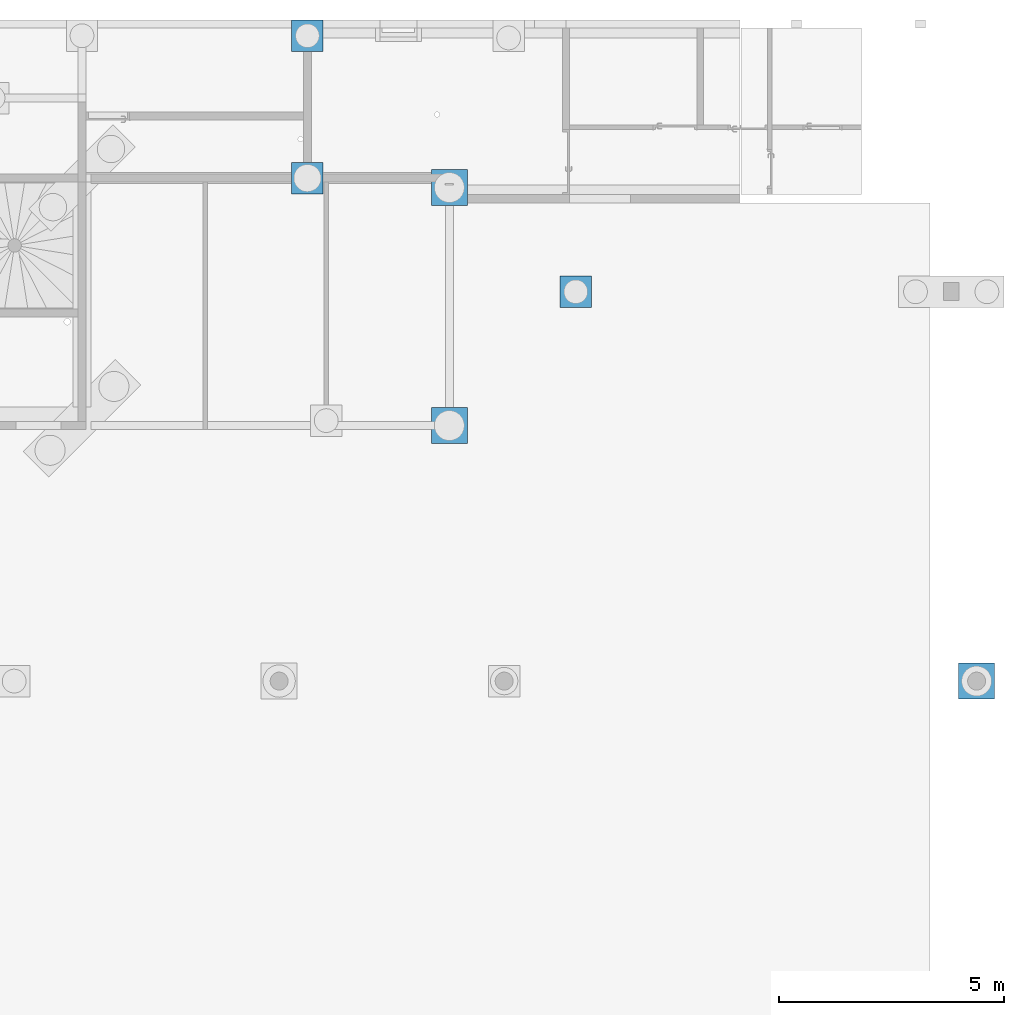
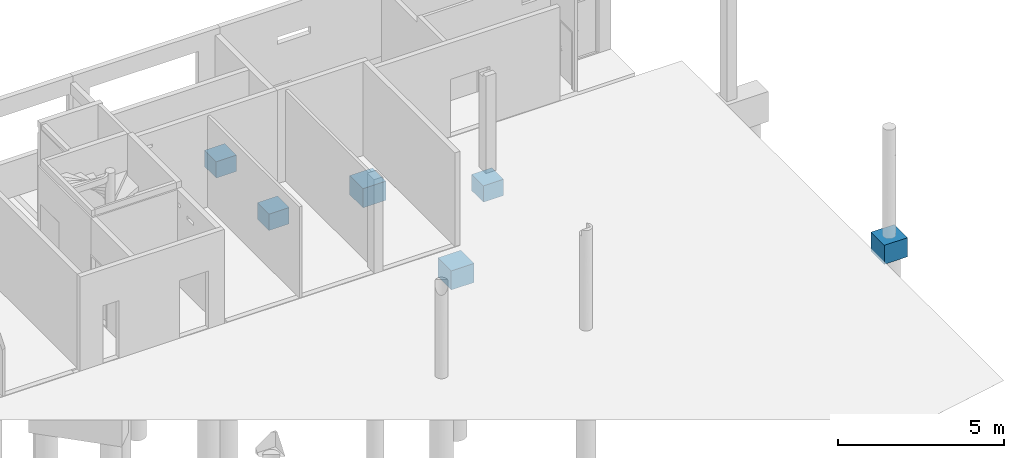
# One storey, part 20 of 29: 6 slabs.
"""IFC2X3 building model written with IfcOpenShell, lengths in centimetres."""

from ifc_helpers import new_model, entity, si_unit, converted_unit, derived_unit, direction, frame, origin, place, context, subcontext, project, spatial, faceted_brep, material, element, save


model = new_model("IFC2X3")

# Units and contexts
model_context = context("Model", 3, precision=0.001, world=origin(), true_north=direction((6.12303176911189e-17, 1.0)))
body_context = subcontext(model_context, "Body", "Model", "MODEL_VIEW")
ifc_project = project(units=[si_unit("LENGTHUNIT", "METRE", prefix="CENTI"), si_unit("AREAUNIT", "SQUARE_METRE"), si_unit("VOLUMEUNIT", "CUBIC_METRE"), converted_unit("PLANEANGLEUNIT", "DEGREE", entity("IfcRatioMeasure", 0.0174532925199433), si_unit("PLANEANGLEUNIT", "RADIAN"), dimensions=[0, 0, 0, 0, 0, 0, 0]), si_unit("MASSUNIT", "GRAM", prefix="KILO"), derived_unit("MASSDENSITYUNIT", [(si_unit("MASSUNIT", "GRAM", prefix="KILO"), 1), (si_unit("LENGTHUNIT", "METRE"), -3)]), si_unit("TIMEUNIT", "SECOND"), si_unit("FREQUENCYUNIT", "HERTZ"), si_unit("THERMODYNAMICTEMPERATUREUNIT", "DEGREE_CELSIUS"), derived_unit("THERMALTRANSMITTANCEUNIT", [(si_unit("MASSUNIT", "GRAM", prefix="KILO"), 1), (si_unit("THERMODYNAMICTEMPERATUREUNIT", "KELVIN"), -1), (si_unit("TIMEUNIT", "SECOND"), -3)]), derived_unit("VOLUMETRICFLOWRATEUNIT", [(si_unit("LENGTHUNIT", "METRE"), 3), (si_unit("TIMEUNIT", "SECOND"), -1)]), si_unit("ELECTRICCURRENTUNIT", "AMPERE"), si_unit("ELECTRICVOLTAGEUNIT", "VOLT"), si_unit("POWERUNIT", "WATT"), si_unit("FORCEUNIT", "NEWTON"), si_unit("ILLUMINANCEUNIT", "LUX"), si_unit("LUMINOUSFLUXUNIT", "LUMEN"), si_unit("LUMINOUSINTENSITYUNIT", "CANDELA"), derived_unit("USERDEFINED", [(si_unit("MASSUNIT", "GRAM", prefix="KILO"), -1), (si_unit("LENGTHUNIT", "METRE"), -2), (si_unit("TIMEUNIT", "SECOND"), 3), (si_unit("LUMINOUSFLUXUNIT", "LUMEN"), 1)]), derived_unit("LINEARVELOCITYUNIT", [(si_unit("LENGTHUNIT", "METRE"), 1), (si_unit("TIMEUNIT", "SECOND"), -1)]), si_unit("PRESSUREUNIT", "PASCAL"), derived_unit("USERDEFINED", [(si_unit("LENGTHUNIT", "METRE"), -2), (si_unit("MASSUNIT", "GRAM", prefix="KILO"), 1), (si_unit("TIMEUNIT", "SECOND"), -2)])], contexts=[model_context])

# Site, building, storey
site_placement = place(None, origin())
site = spatial("IfcSite", under=ifc_project, at=site_placement, Name="Default", CompositionType="ELEMENT")
building_placement = place(site_placement, origin())
building = spatial("IfcBuilding", under=site, at=building_placement, Name="CAGE 03", CompositionType="ELEMENT")
storey_placement = place(building_placement, frame((0.0, 0.0, -26.0)))
storey = spatial("IfcBuildingStorey", under=building, at=storey_placement, Name="+3.74", CompositionType="ELEMENT", Elevation=-26.0000000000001)

# Slabs
ifc_material = material(Name="Béton, C25/30")
slab_1_placement = place(storey_placement, frame((8386.86582014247, 4653.6606660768, -92.0)))
element("IfcSlab", 1, at=slab_1_placement, inside=storey, material=ifc_material, Name="M_Base-Rectangulaire:70x70x60ht", ObjectType="M_Base-Rectangulaire:70x70x60ht", PredefinedType="BASESLAB", context=body_context, shape_type="Brep", body=[
    faceted_brep([(70.0, 70.0, 60.0), (0.0, 70.0, 60.0), (0.0, 0.0, 60.0), (70.0, 0.0, 60.0), (0.0, 0.0, 0.0), (8.50000000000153, 35.0, 0.0), (10.6920097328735, 30.0766655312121, 0.0), (0.0, 70.0, 0.0), (12.8840194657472, 25.1533310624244, 0.0), (15.0760291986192, 20.2299965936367, 0.0), (17.2680389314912, 15.306662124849, 0.0), (22.3935302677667, 13.6412890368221, 0.0), (27.5190216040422, 11.9759159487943, 0.0), (32.6445129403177, 10.3105428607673, 0.0), (37.7700042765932, 8.64516977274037, 0.0), (70.0, 0.0, 0.0), (11.0305248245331, 42.788154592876, 0.0), (13.5610496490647, 50.5763091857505, 0.0), (18.2282861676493, 53.2709394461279, 0.0), (22.8955226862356, 55.9655697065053, 0.0), (27.5627592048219, 58.6601999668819, 0.0), (32.2299957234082, 61.3548302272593, 0.0), (70.0, 70.0, 0.0), (61.4999999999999, 35.0, 0.0), (59.3079902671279, 39.9233344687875, 0.0), (57.1159805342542, 44.8466689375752, 0.0), (54.9239708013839, 49.7700034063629, 0.0), (52.7319610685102, 54.6933378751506, 0.0), (47.6064697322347, 56.3587109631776, 0.0), (42.4809783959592, 58.0240840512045, 0.0), (37.3554870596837, 59.6894571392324, 0.0), (42.4372407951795, 11.3398000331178, 0.0), (47.1044773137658, 14.0344302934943, 0.0), (51.7717138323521, 16.7290605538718, 0.0), (56.4389503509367, 19.4236908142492, 0.0), (58.9694751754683, 27.2118454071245, 0.0), (8.4999999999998, 35.0, 5.0), (10.6920097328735, 39.9233344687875, 5.0), (12.8840194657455, 44.8466689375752, 5.0), (15.0760291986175, 49.7700034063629, 5.0), (17.2680389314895, 54.6933378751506, 5.0), (22.3935302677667, 56.3587109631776, 5.0), (27.5190216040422, 58.0240840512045, 5.0), (32.6445129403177, 59.6894571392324, 5.0), (37.7700042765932, 61.3548302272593, 5.0), (42.4372407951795, 58.6601999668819, 5.0), (47.1044773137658, 55.9655697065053, 5.0), (51.7717138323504, 53.2709394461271, 5.0), (56.4389503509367, 50.5763091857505, 5.0), (58.9694751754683, 42.7881545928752, 5.0), (61.4999999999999, 35.0, 5.0), (59.3079902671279, 30.0766655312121, 5.0), (57.1159805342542, 25.1533310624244, 5.0), (54.9239708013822, 20.2299965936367, 5.0), (52.7319610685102, 15.306662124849, 5.0), (47.6064697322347, 13.6412890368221, 5.0), (42.4809783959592, 11.9759159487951, 5.0), (37.3554870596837, 10.3105428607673, 5.0), (32.2299957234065, 8.64516977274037, 5.0), (27.5627592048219, 11.3398000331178, 5.0), (22.8955226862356, 14.0344302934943, 5.0), (18.2282861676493, 16.7290605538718, 5.0), (13.561049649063, 19.4236908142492, 5.0), (11.0305248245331, 27.2118454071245, 5.0)], [[[0, 1, 2, 3]], [[4, 5, 6]], [[5, 4, 7]], [[4, 6, 8]], [[4, 8, 9]], [[4, 9, 10]], [[4, 10, 11]], [[4, 11, 12]], [[4, 12, 13]], [[4, 13, 14]], [[14, 15, 4]], [[7, 16, 5]], [[7, 17, 16]], [[7, 18, 17]], [[7, 19, 18]], [[7, 20, 19]], [[7, 21, 20]], [[21, 7, 22]], [[23, 22, 15]], [[22, 23, 24]], [[22, 24, 25]], [[22, 25, 26]], [[22, 26, 27]], [[22, 27, 28]], [[22, 28, 29]], [[22, 29, 30]], [[22, 30, 21]], [[15, 14, 31]], [[15, 31, 32]], [[15, 32, 33]], [[15, 33, 34]], [[15, 34, 35]], [[15, 35, 23]], [[2, 1, 7, 4]], [[3, 2, 4, 15]], [[0, 3, 15, 22]], [[1, 0, 22, 7]], [[36, 37, 38, 39, 40, 41, 42, 43, 44, 45, 46, 47, 48, 49, 50, 51, 52, 53, 54, 55, 56, 57, 58, 59, 60, 61, 62, 63]], [[9, 8, 62]], [[63, 6, 36]], [[63, 62, 8]], [[62, 61, 9]], [[35, 34, 52]], [[59, 58, 12]], [[36, 6, 5]], [[32, 55, 33]], [[11, 10, 60]], [[34, 33, 54]], [[35, 51, 23]], [[12, 58, 13]], [[60, 10, 61]], [[8, 6, 63]], [[57, 13, 58]], [[61, 10, 9]], [[56, 55, 32]], [[11, 59, 12]], [[54, 33, 55]], [[53, 52, 34, 54]], [[57, 14, 13]], [[31, 14, 56, 32]], [[11, 60, 59]], [[50, 23, 51]], [[57, 56, 14]], [[35, 52, 51]], [[26, 25, 48]], [[49, 24, 50]], [[49, 48, 25]], [[48, 47, 26]], [[46, 27, 47]], [[45, 28, 46]], [[50, 24, 23]], [[21, 43, 20]], [[45, 44, 29]], [[39, 38, 17, 40]], [[16, 37, 5]], [[29, 44, 30]], [[25, 24, 49]], [[43, 21, 30]], [[47, 27, 26]], [[42, 41, 19]], [[28, 27, 46]], [[16, 17, 38]], [[45, 29, 28]], [[36, 5, 37]], [[42, 20, 43]], [[40, 18, 41]], [[19, 41, 18]], [[40, 17, 18]], [[43, 30, 44]], [[42, 19, 20]], [[16, 38, 37]]]),
])
slab_2_placement = place(storey_placement, frame((9274.36582014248, 3781.66066607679, -102.0)))
element("IfcSlab", 2, at=slab_2_placement, inside=storey, material=ifc_material, Name="M_Base-Rectangulaire:80x80x70ht", ObjectType="M_Base-Rectangulaire:80x80x70ht", PredefinedType="BASESLAB", context=body_context, shape_type="Brep", body=[
    faceted_brep([(80.0, 80.0, 70.0), (0.0, 80.0, 70.0), (0.0, 0.0, 70.0), (80.0, 0.0, 70.0), (0.0, 0.0, 0.0), (6.50000000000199, 40.0, 0.0), (8.68580031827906, 34.357798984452, 0.0), (0.0, 80.0, 0.0), (10.8716006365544, 28.7155979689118, 0.0), (13.0574009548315, 23.0733969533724, 0.0), (15.2432012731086, 17.4311959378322, 0.0), (22.2051484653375, 14.7341232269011, 0.0), (29.1670956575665, 12.0370505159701, 0.0), (36.1290428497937, 9.33997780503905, 0.0), (43.0909900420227, 6.642905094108, 0.0), (80.0, 0.0, 0.0), (8.68580031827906, 45.6422010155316, 0.0), (10.8716006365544, 51.2844020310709, 0.0), (13.0574009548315, 56.9266030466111, 0.0), (15.2432012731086, 62.5688040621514, 0.0), (20.6596534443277, 65.2658767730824, 0.0), (26.0761056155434, 67.9629494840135, 0.0), (31.4925577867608, 70.6600221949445, 0.0), (36.9090099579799, 73.3570949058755, 0.0), (80.0, 80.0, 0.0), (73.5000000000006, 40.0, 0.0), (71.3141996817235, 45.6422010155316, 0.0), (69.1283993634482, 51.2844020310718, 0.0), (66.9425990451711, 56.9266030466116, 0.0), (64.756798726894, 62.5688040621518, 0.0), (57.7948515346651, 65.2658767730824, 0.0), (50.8329043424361, 67.9629494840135, 0.0), (43.8709571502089, 70.6600221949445, 0.0), (48.5074422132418, 9.33997780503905, 0.0), (53.9238943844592, 12.0370505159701, 0.0), (59.3403465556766, 14.7341232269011, 0.0), (64.756798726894, 17.4311959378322, 0.0), (66.9425990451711, 23.0733969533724, 0.0), (69.1283993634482, 28.7155979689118, 0.0), (71.3141996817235, 34.3577989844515, 0.0), (64.7567987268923, 17.4311959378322, 5.0), (57.7948515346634, 14.7341232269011, 5.0), (50.8329043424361, 12.0370505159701, 5.0), (43.8709571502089, 9.33997780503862, 5.0), (36.9090099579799, 6.642905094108, 5.0), (31.4925577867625, 9.33997780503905, 5.0), (26.0761056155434, 12.0370505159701, 5.0), (20.6596534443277, 14.7341232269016, 5.0), (15.2432012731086, 17.4311959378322, 5.0), (13.0574009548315, 23.0733969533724, 5.0), (10.8716006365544, 28.7155979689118, 5.0), (9.32055531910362, 32.7193074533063, 5.0), (6.50000000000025, 40.0, 5.0), (9.32055531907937, 47.2806925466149, 5.0), (10.8716006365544, 51.2844020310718, 5.0), (13.0574009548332, 56.9266030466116, 5.0), (15.2432012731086, 62.5688040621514, 5.0), (22.2051484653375, 65.2658767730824, 5.0), (29.1670956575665, 67.9629494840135, 5.0), (36.1290428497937, 70.6600221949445, 5.0), (43.0909900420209, 73.3570949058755, 5.0), (48.5074422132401, 70.6600221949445, 5.0), (53.9238943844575, 67.9629494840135, 5.0), (59.3403465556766, 65.2658767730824, 5.0), (64.7567987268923, 62.5688040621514, 5.0), (66.9425990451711, 56.9266030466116, 5.0), (69.1283993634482, 51.2844020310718, 5.0), (70.6794446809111, 47.2806925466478, 5.0), (73.5000000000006, 40.0, 5.0), (70.6794446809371, 32.7193074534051, 5.0), (69.1283993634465, 28.7155979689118, 5.0), (66.9425990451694, 23.073396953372, 5.0)], [[[0, 1, 2, 3]], [[4, 5, 6]], [[5, 4, 7]], [[4, 6, 8]], [[4, 8, 9]], [[4, 9, 10]], [[4, 10, 11]], [[4, 11, 12]], [[4, 12, 13]], [[4, 13, 14]], [[14, 15, 4]], [[7, 16, 5]], [[7, 17, 16]], [[7, 18, 17]], [[7, 19, 18]], [[7, 20, 19]], [[7, 21, 20]], [[7, 22, 21]], [[7, 23, 22]], [[23, 7, 24]], [[25, 24, 15]], [[24, 25, 26]], [[24, 26, 27]], [[24, 27, 28]], [[24, 28, 29]], [[24, 29, 30]], [[24, 30, 31]], [[24, 31, 32]], [[24, 32, 23]], [[15, 14, 33]], [[15, 33, 34]], [[15, 34, 35]], [[15, 35, 36]], [[15, 36, 37]], [[15, 37, 38]], [[15, 38, 39]], [[15, 39, 25]], [[2, 1, 7, 4]], [[3, 2, 4, 15]], [[0, 3, 15, 24]], [[1, 0, 24, 7]], [[40, 41, 42, 43, 44, 45, 46, 47, 48, 49, 50, 51, 52, 53, 54, 55, 56, 57, 58, 59, 60, 61, 62, 63, 64, 65, 66, 67, 68, 69, 70, 71]], [[6, 5, 52, 51, 50, 49, 48, 10, 9, 8]], [[39, 38, 37, 36, 40, 71, 70, 69, 68, 25]], [[48, 47, 10]], [[47, 46, 11]], [[36, 35, 40]], [[42, 33, 43]], [[35, 41, 40]], [[14, 13, 44]], [[12, 11, 46]], [[47, 11, 10]], [[35, 34, 41]], [[41, 34, 42]], [[12, 45, 13]], [[14, 43, 33]], [[42, 34, 33]], [[44, 13, 45]], [[12, 46, 45]], [[14, 44, 43]], [[26, 25, 68, 67, 66, 65, 64, 29, 28, 27]], [[16, 17, 18, 19, 56, 55, 54, 53, 52, 5]], [[64, 63, 29]], [[63, 62, 30]], [[19, 20, 56]], [[58, 22, 59]], [[20, 57, 56]], [[23, 32, 60]], [[31, 30, 62]], [[63, 30, 29]], [[20, 21, 57]], [[57, 21, 58]], [[31, 61, 32]], [[23, 59, 22]], [[58, 21, 22]], [[60, 32, 61]], [[31, 62, 61]], [[23, 60, 59]]]),
])
slab_3_placement = place(storey_placement, frame((7789.36582014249, 5223.6606660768, -140.0)))
element("IfcSlab", 3, at=slab_3_placement, inside=storey, material=ifc_material, Name="M_Base-Rectangulaire:70x70x60ht", ObjectType="M_Base-Rectangulaire:70x70x60ht", PredefinedType="BASESLAB", context=body_context, shape_type="Brep", body=[
    faceted_brep([(26.0, 70.0, 60.0), (0.0, 70.0, 60.0), (0.0, 0.0, 60.0), (70.0, 0.0, 60.0), (70.0, 70.0, 60.0), (0.0, 0.0, 0.0), (8.50000000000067, 35.0, 0.0), (10.6920097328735, 30.0766655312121, 0.0), (0.0, 70.0, 0.0), (12.8840194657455, 25.1533310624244, 0.0), (15.0760291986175, 20.2299965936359, 0.0), (17.2680389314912, 15.306662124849, 0.0), (22.3935302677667, 13.6412890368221, 0.0), (27.5190216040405, 11.9759159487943, 0.0), (32.6445129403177, 10.3105428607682, 0.0), (37.7700042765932, 8.64516977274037, 0.0), (70.0, 0.0, 0.0), (11.0305248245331, 42.7881545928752, 0.0), (13.5610496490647, 50.5763091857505, 0.0), (18.228286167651, 53.2709394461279, 0.0), (22.8955226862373, 55.9655697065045, 0.0), (27.5627592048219, 58.6601999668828, 0.0), (32.2299957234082, 61.3548302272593, 0.0), (70.0, 70.0, 0.0), (61.4999999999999, 35.0, 0.0), (59.3079902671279, 39.9233344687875, 0.0), (57.1159805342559, 44.8466689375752, 0.0), (54.9239708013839, 49.7700034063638, 0.0), (52.7319610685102, 54.6933378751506, 0.0), (47.6064697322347, 56.3587109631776, 0.0), (42.4809783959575, 58.0240840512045, 0.0), (37.3554870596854, 59.6894571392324, 0.0), (42.4372407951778, 11.3398000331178, 0.0), (47.1044773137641, 14.0344302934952, 0.0), (51.7717138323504, 16.7290605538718, 0.0), (56.4389503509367, 19.4236908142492, 0.0), (58.9694751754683, 27.2118454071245, 0.0), (8.4999999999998, 35.0, 5.0), (10.6920097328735, 39.9233344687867, 5.0), (12.8840194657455, 44.8466689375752, 5.0), (15.0760291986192, 49.7700034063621, 5.0), (17.2680389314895, 54.6933378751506, 5.0), (22.3935302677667, 56.3587109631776, 5.0), (27.5190216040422, 58.0240840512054, 5.0), (32.6445129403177, 59.6894571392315, 5.0), (37.7700042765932, 61.3548302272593, 5.0), (42.4372407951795, 58.6601999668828, 5.0), (47.1044773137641, 55.9655697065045, 5.0), (51.7717138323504, 53.2709394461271, 5.0), (56.4389503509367, 50.5763091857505, 5.0), (58.9694751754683, 42.7881545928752, 5.0), (61.4999999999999, 35.0, 5.0), (59.3079902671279, 30.0766655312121, 5.0), (57.1159805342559, 25.1533310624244, 5.0), (54.9239708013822, 20.2299965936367, 5.0), (52.7319610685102, 15.306662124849, 5.0), (47.6064697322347, 13.6412890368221, 5.0), (42.4809783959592, 11.9759159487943, 5.0), (37.3554870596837, 10.3105428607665, 5.0), (32.2299957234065, 8.64516977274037, 5.0), (27.5627592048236, 11.3398000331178, 5.0), (22.8955226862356, 14.0344302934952, 5.0), (18.228286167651, 16.7290605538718, 5.0), (13.561049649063, 19.4236908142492, 5.0), (11.0305248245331, 27.2118454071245, 5.0)], [[[0, 1, 2, 3, 4]], [[5, 6, 7]], [[6, 5, 8]], [[5, 7, 9]], [[5, 9, 10]], [[5, 10, 11]], [[5, 11, 12]], [[5, 12, 13]], [[5, 13, 14]], [[5, 14, 15]], [[15, 16, 5]], [[8, 17, 6]], [[8, 18, 17]], [[8, 19, 18]], [[8, 20, 19]], [[8, 21, 20]], [[8, 22, 21]], [[22, 8, 23]], [[24, 23, 16]], [[23, 24, 25]], [[23, 25, 26]], [[23, 26, 27]], [[23, 27, 28]], [[23, 28, 29]], [[23, 29, 30]], [[23, 30, 31]], [[23, 31, 22]], [[16, 15, 32]], [[16, 32, 33]], [[16, 33, 34]], [[16, 34, 35]], [[16, 35, 36]], [[16, 36, 24]], [[2, 1, 8, 5]], [[3, 2, 5, 16]], [[4, 3, 16, 23]], [[0, 4, 23, 8, 1]], [[37, 38, 39, 40, 41, 42, 43, 44, 45, 46, 47, 48, 49, 50, 51, 52, 53, 54, 55, 56, 57, 58, 59, 60, 61, 62, 63, 64]], [[10, 9, 63]], [[64, 7, 37]], [[64, 63, 9]], [[63, 62, 10]], [[36, 35, 53]], [[60, 59, 13]], [[37, 7, 6]], [[33, 56, 34]], [[12, 11, 61]], [[35, 34, 55]], [[36, 52, 24]], [[13, 59, 14]], [[61, 11, 62]], [[9, 7, 64]], [[58, 14, 59]], [[62, 11, 10]], [[57, 56, 33]], [[12, 60, 13]], [[55, 34, 56]], [[54, 53, 35, 55]], [[58, 15, 14]], [[32, 15, 57, 33]], [[12, 61, 60]], [[51, 24, 52]], [[58, 57, 15]], [[36, 53, 52]], [[27, 26, 49]], [[50, 25, 51]], [[50, 49, 26]], [[49, 48, 27]], [[47, 28, 48]], [[46, 29, 47]], [[51, 25, 24]], [[22, 44, 21]], [[46, 45, 30]], [[40, 39, 18, 41]], [[17, 38, 6]], [[30, 45, 31]], [[26, 25, 50]], [[44, 22, 31]], [[48, 28, 27]], [[43, 42, 20]], [[29, 28, 47]], [[17, 18, 39]], [[46, 30, 29]], [[37, 6, 38]], [[43, 21, 44]], [[41, 19, 42]], [[20, 42, 19]], [[41, 18, 19]], [[44, 31, 45]], [[43, 20, 21]], [[17, 39, 38]]]),
])
slab_4_placement = place(storey_placement, frame((7789.36582014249, 4906.6606660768, -140.0)))
element("IfcSlab", 4, at=slab_4_placement, inside=storey, material=ifc_material, Name="M_Base-Rectangulaire:70x70x60ht", ObjectType="M_Base-Rectangulaire:70x70x60ht", PredefinedType="BASESLAB", context=body_context, shape_type="Brep", body=[
    faceted_brep([(70.0, 70.0, 60.0), (0.0, 70.0, 60.0), (0.0, 0.0, 60.0), (70.0, 0.0, 60.0), (0.0, 0.0, 0.0), (4.50000000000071, 35.0, 0.0), (6.73331079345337, 29.6083107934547, 0.0), (0.0, 70.0, 0.0), (8.96662158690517, 24.2166215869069, 0.0), (11.1999323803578, 18.8249323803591, 0.0), (13.4332431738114, 13.4332431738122, 0.0), (18.8249323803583, 11.1999323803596, 0.0), (24.2166215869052, 8.9666215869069, 0.0), (29.6083107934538, 6.73331079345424, 0.0), (35.0, 4.50000000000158, 0.0), (70.0, 0.0, 0.0), (6.73331079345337, 40.3916892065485, 0.0), (8.96662158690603, 45.7833784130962, 0.0), (11.1999323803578, 51.175067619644, 0.0), (13.4332431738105, 56.5667568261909, 0.0), (18.8249323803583, 58.8000676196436, 0.0), (24.2166215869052, 61.0333784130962, 0.0), (29.6083107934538, 63.2666892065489, 0.0), (35.0, 65.5000000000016, 0.0), (70.0, 70.0, 0.0), (65.5000000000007, 35.0, 0.0), (63.2666892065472, 40.3916892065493, 0.0), (61.0333784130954, 45.7833784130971, 0.0), (58.8000676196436, 51.1750676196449, 0.0), (56.5667568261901, 56.5667568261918, 0.0), (51.1750676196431, 58.8000676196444, 0.0), (45.7833784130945, 61.0333784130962, 0.0), (40.3916892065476, 63.2666892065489, 0.0), (40.3916892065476, 6.73331079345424, 0.0), (45.7833784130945, 8.9666215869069, 0.0), (51.1750676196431, 11.1999323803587, 0.0), (56.5667568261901, 13.4332431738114, 0.0), (58.8000676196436, 18.8249323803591, 0.0), (61.0333784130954, 24.216621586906, 0.0), (63.2666892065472, 29.6083107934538, 0.0), (35.0, 65.5000000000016, 5.0), (40.3916892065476, 63.2666892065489, 5.0), (45.7833784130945, 61.0333784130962, 5.0), (51.1750676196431, 58.8000676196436, 5.0), (56.5667568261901, 56.5667568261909, 5.0), (59.8147856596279, 48.7253215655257, 5.0), (62.6573928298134, 41.8626607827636, 5.0), (65.5000000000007, 35.0, 5.0), (62.6573928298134, 28.1373392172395, 5.0), (61.0333784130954, 24.216621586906, 5.0), (58.8000676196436, 18.8249323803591, 5.0), (56.5667568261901, 13.4332431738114, 5.0), (51.1750676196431, 11.1999323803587, 5.0), (45.7833784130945, 8.9666215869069, 5.0), (40.3916892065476, 6.73331079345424, 5.0), (35.0, 4.50000000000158, 5.0), (29.6083107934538, 6.73331079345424, 5.0), (24.2166215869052, 8.9666215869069, 5.0), (18.8249323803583, 11.1999323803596, 5.0), (13.4332431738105, 13.4332431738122, 5.0), (10.1852143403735, 21.2746784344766, 5.0), (7.3426071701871, 28.1373392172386, 5.0), (4.50000000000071, 35.0, 5.0), (7.34260717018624, 41.8626607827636, 5.0), (8.96662158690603, 45.7833784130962, 5.0), (11.1999323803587, 51.175067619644, 5.0), (13.4332431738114, 56.5667568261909, 5.0), (18.8249323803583, 58.8000676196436, 5.0), (24.2166215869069, 61.0333784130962, 5.0), (29.6083107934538, 63.2666892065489, 5.0)], [[[0, 1, 2, 3]], [[4, 5, 6]], [[5, 4, 7]], [[4, 6, 8]], [[4, 8, 9]], [[4, 9, 10]], [[4, 10, 11]], [[4, 11, 12]], [[4, 12, 13]], [[4, 13, 14]], [[14, 15, 4]], [[7, 16, 5]], [[7, 17, 16]], [[7, 18, 17]], [[7, 19, 18]], [[7, 20, 19]], [[7, 21, 20]], [[7, 22, 21]], [[7, 23, 22]], [[23, 7, 24]], [[25, 24, 15]], [[24, 25, 26]], [[24, 26, 27]], [[24, 27, 28]], [[24, 28, 29]], [[24, 29, 30]], [[24, 30, 31]], [[24, 31, 32]], [[24, 32, 23]], [[15, 14, 33]], [[15, 33, 34]], [[15, 34, 35]], [[15, 35, 36]], [[15, 36, 37]], [[15, 37, 38]], [[15, 38, 39]], [[15, 39, 25]], [[2, 1, 7, 4]], [[3, 2, 4, 15]], [[0, 3, 15, 24]], [[1, 0, 24, 7]], [[40, 41, 42, 43, 44, 45, 46, 47, 48, 49, 50, 51, 52, 53, 54, 55, 56, 57, 58, 59, 60, 61, 62, 63, 64, 65, 66, 67, 68, 69]], [[10, 59, 58, 57, 56, 55, 14, 13, 12, 11]], [[39, 38, 37, 36, 51, 50, 49, 48, 47, 25]], [[10, 9, 8, 6, 5, 62, 61, 60, 59]], [[33, 14, 55, 54, 53, 52, 51, 36, 35, 34]], [[29, 44, 43, 42, 41, 40, 23, 32, 31, 30]], [[16, 17, 18, 19, 66, 65, 64, 63, 62, 5]], [[29, 28, 27, 26, 25, 47, 46, 45, 44]], [[22, 23, 40, 69, 68, 67, 66, 19, 20, 21]]]),
])
slab_5_placement = place(storey_placement, frame((8100.36582014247, 4880.6606660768, -150.0)))
element("IfcSlab", 5, at=slab_5_placement, inside=storey, material=ifc_material, Name="M_Base-Rectangulaire:80x80x70ht", ObjectType="M_Base-Rectangulaire:80x80x70ht", PredefinedType="BASESLAB", context=body_context, shape_type="Brep", body=[
    faceted_brep([(80.0, 80.0, 70.0), (0.0, 80.0, 70.0), (0.0, 0.0, 70.0), (80.0, 0.0, 70.0), (0.0, 0.0, 0.0), (6.50000000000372, 40.0, 0.0), (8.68580031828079, 34.3577989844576, 0.0), (0.0, 80.0, 0.0), (10.8716006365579, 28.7155979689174, 0.0), (13.0574009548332, 23.073396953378, 0.0), (15.2432012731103, 17.431195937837, 0.0), (22.2051484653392, 14.7341232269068, 0.0), (29.1670956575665, 12.0370505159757, 0.0), (36.1290428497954, 9.33997780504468, 0.0), (43.0909900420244, 6.64290509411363, 0.0), (80.0, 0.0, 0.0), (8.68580031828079, 45.6422010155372, 0.0), (10.8716006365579, 51.2844020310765, 0.0), (13.0574009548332, 56.9266030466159, 0.0), (15.2432012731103, 62.5688040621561, 0.0), (20.6596534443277, 65.2658767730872, 0.0), (26.0761056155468, 67.9629494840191, 0.0), (31.4925577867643, 70.6600221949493, 0.0), (36.9090099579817, 73.3570949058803, 0.0), (80.0, 80.0, 0.0), (73.5000000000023, 40.0, 0.0), (71.3141996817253, 45.6422010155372, 0.0), (69.1283993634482, 51.2844020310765, 0.0), (66.9425990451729, 56.9266030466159, 0.0), (64.7567987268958, 62.568804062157, 0.0), (57.7948515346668, 65.2658767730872, 0.0), (50.8329043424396, 67.9629494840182, 0.0), (43.8709571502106, 70.6600221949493, 0.0), (48.5074422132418, 9.33997780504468, 0.0), (53.9238943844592, 12.0370505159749, 0.0), (59.3403465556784, 14.7341232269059, 0.0), (64.7567987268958, 17.431195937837, 0.0), (66.9425990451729, 23.0733969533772, 0.0), (69.1283993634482, 28.7155979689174, 0.0), (71.3141996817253, 34.3577989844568, 0.0), (64.756798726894, 17.431195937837, 5.0), (57.7948515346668, 14.7341232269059, 5.0), (50.8329043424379, 12.0370505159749, 5.0), (43.8709571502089, 9.33997780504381, 5.0), (36.9090099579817, 6.64290509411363, 5.0), (31.4925577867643, 9.33997780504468, 5.0), (26.0761056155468, 12.0370505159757, 5.0), (20.6596534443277, 14.7341232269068, 5.0), (15.2432012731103, 17.4311959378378, 5.0), (13.0574009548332, 23.073396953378, 5.0), (10.8716006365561, 28.7155979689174, 5.0), (9.32055531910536, 32.7193074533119, 5.0), (6.50000000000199, 40.0, 5.0), (9.3205553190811, 47.2806925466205, 5.0), (10.8716006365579, 51.2844020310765, 5.0), (13.0574009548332, 56.9266030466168, 5.0), (15.2432012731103, 62.568804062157, 5.0), (22.2051484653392, 65.265876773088, 5.0), (29.1670956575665, 67.9629494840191, 5.0), (36.1290428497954, 70.6600221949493, 5.0), (43.0909900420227, 73.3570949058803, 5.0), (48.5074422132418, 70.6600221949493, 5.0), (53.9238943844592, 67.9629494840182, 5.0), (59.3403465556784, 65.265876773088, 5.0), (64.756798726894, 62.568804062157, 5.0), (66.9425990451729, 56.9266030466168, 5.0), (69.1283993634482, 51.2844020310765, 5.0), (70.6794446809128, 47.2806925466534, 5.0), (73.5000000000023, 40.0, 5.0), (70.6794446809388, 32.7193074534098, 5.0), (69.1283993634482, 28.7155979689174, 5.0), (66.9425990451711, 23.0733969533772, 5.0)], [[[0, 1, 2, 3]], [[4, 5, 6]], [[5, 4, 7]], [[4, 6, 8]], [[4, 8, 9]], [[4, 9, 10]], [[4, 10, 11]], [[4, 11, 12]], [[4, 12, 13]], [[4, 13, 14]], [[14, 15, 4]], [[7, 16, 5]], [[7, 17, 16]], [[7, 18, 17]], [[7, 19, 18]], [[7, 20, 19]], [[7, 21, 20]], [[7, 22, 21]], [[7, 23, 22]], [[23, 7, 24]], [[25, 24, 15]], [[24, 25, 26]], [[24, 26, 27]], [[24, 27, 28]], [[24, 28, 29]], [[24, 29, 30]], [[24, 30, 31]], [[24, 31, 32]], [[24, 32, 23]], [[15, 14, 33]], [[15, 33, 34]], [[15, 34, 35]], [[15, 35, 36]], [[15, 36, 37]], [[15, 37, 38]], [[15, 38, 39]], [[15, 39, 25]], [[2, 1, 7, 4]], [[3, 2, 4, 15]], [[0, 3, 15, 24]], [[1, 0, 24, 7]], [[40, 41, 42, 43, 44, 45, 46, 47, 48, 49, 50, 51, 52, 53, 54, 55, 56, 57, 58, 59, 60, 61, 62, 63, 64, 65, 66, 67, 68, 69, 70, 71]], [[6, 5, 52, 51, 50, 49, 48, 10, 9, 8]], [[39, 38, 37, 36, 40, 71, 70, 69, 68, 25]], [[48, 47, 10]], [[47, 46, 11]], [[36, 35, 40]], [[42, 33, 43]], [[35, 41, 40]], [[14, 13, 44]], [[12, 11, 46]], [[47, 11, 10]], [[35, 34, 41]], [[41, 34, 42]], [[12, 45, 13]], [[14, 43, 33]], [[42, 34, 33]], [[44, 13, 45]], [[12, 46, 45]], [[14, 44, 43]], [[26, 25, 68, 67, 66, 65, 64, 29, 28, 27]], [[16, 17, 18, 19, 56, 55, 54, 53, 52, 5]], [[64, 63, 29]], [[63, 62, 30]], [[19, 20, 56]], [[58, 22, 59]], [[20, 57, 56]], [[23, 32, 60]], [[31, 30, 62]], [[63, 30, 29]], [[20, 21, 57]], [[57, 21, 58]], [[31, 61, 32]], [[23, 59, 22]], [[58, 21, 22]], [[60, 32, 61]], [[31, 62, 61]], [[23, 60, 59]]]),
])
slab_6_placement = place(storey_placement, frame((8100.36582014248, 4350.6606660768, -130.0)))
element("IfcSlab", 6, at=slab_6_placement, inside=storey, material=ifc_material, Name="M_Base-Rectangulaire:80x80x70ht", ObjectType="M_Base-Rectangulaire:80x80x70ht", PredefinedType="BASESLAB", context=body_context, shape_type="Brep", body=[
    faceted_brep([(80.0, 80.0, 70.0), (0.0, 80.0, 70.0), (0.0, 0.0, 70.0), (80.0, 0.0, 70.0), (0.0, 0.0, 0.0), (6.50000000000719, 40.0, 0.0), (8.68580031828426, 34.3577989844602, 0.0), (0.0, 80.0, 0.0), (10.8716006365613, 28.71559796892, 0.0), (13.0574009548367, 23.0733969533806, 0.0), (15.2432012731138, 17.4311959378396, 0.0), (22.2051484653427, 14.7341232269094, 0.0), (29.1670956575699, 12.0370505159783, 0.0), (36.1290428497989, 9.33997780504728, 0.0), (43.0909900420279, 6.64290509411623, 0.0), (80.0, 0.0, 0.0), (8.68580031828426, 45.6422010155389, 0.0), (10.8716006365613, 51.2844020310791, 0.0), (13.0574009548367, 56.9266030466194, 0.0), (15.2432012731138, 62.5688040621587, 0.0), (20.6596534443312, 65.2658767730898, 0.0), (26.0761056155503, 67.9629494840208, 0.0), (31.4925577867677, 70.6600221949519, 0.0), (36.9090099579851, 73.3570949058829, 0.0), (80.0, 80.0, 0.0), (73.5000000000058, 40.0, 0.0), (71.3141996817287, 45.6422010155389, 0.0), (69.1283993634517, 51.2844020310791, 0.0), (66.9425990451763, 56.9266030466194, 0.0), (64.7567987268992, 62.5688040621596, 0.0), (57.7948515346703, 65.2658767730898, 0.0), (50.8329043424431, 67.9629494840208, 0.0), (43.8709571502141, 70.6600221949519, 0.0), (48.5074422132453, 9.33997780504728, 0.0), (53.9238943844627, 12.0370505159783, 0.0), (59.3403465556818, 14.7341232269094, 0.0), (64.7567987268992, 17.4311959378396, 0.0), (66.9425990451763, 23.0733969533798, 0.0), (69.1283993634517, 28.7155979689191, 0.0), (71.3141996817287, 34.3577989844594, 0.0), (64.7567987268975, 17.4311959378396, 5.0), (57.7948515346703, 14.7341232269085, 5.0), (50.8329043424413, 12.0370505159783, 5.0), (43.8709571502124, 9.33997780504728, 5.0), (36.9090099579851, 6.64290509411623, 5.0), (31.4925577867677, 9.33997780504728, 5.0), (26.0761056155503, 12.0370505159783, 5.0), (20.6596534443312, 14.7341232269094, 5.0), (15.2432012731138, 17.4311959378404, 5.0), (13.0574009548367, 23.0733969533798, 5.0), (10.8716006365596, 28.7155979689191, 5.0), (9.32055531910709, 32.7193074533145, 5.0), (6.50000000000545, 40.0, 5.0), (9.32055531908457, 47.2806925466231, 5.0), (10.8716006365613, 51.28440203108, 5.0), (13.0574009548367, 56.9266030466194, 5.0), (15.2432012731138, 62.5688040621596, 5.0), (22.2051484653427, 65.2658767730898, 5.0), (29.1670956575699, 67.9629494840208, 5.0), (36.1290428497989, 70.6600221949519, 5.0), (43.0909900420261, 73.3570949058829, 5.0), (48.5074422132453, 70.6600221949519, 5.0), (53.9238943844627, 67.9629494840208, 5.0), (59.3403465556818, 65.2658767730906, 5.0), (64.7567987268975, 62.5688040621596, 5.0), (66.9425990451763, 56.9266030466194, 5.0), (69.1283993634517, 51.28440203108, 5.0), (70.6794446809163, 47.280692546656, 5.0), (73.5000000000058, 40.0, 5.0), (70.6794446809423, 32.7193074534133, 5.0), (69.1283993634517, 28.7155979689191, 5.0), (66.9425990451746, 23.0733969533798, 5.0)], [[[0, 1, 2, 3]], [[4, 5, 6]], [[5, 4, 7]], [[4, 6, 8]], [[4, 8, 9]], [[4, 9, 10]], [[4, 10, 11]], [[4, 11, 12]], [[4, 12, 13]], [[4, 13, 14]], [[14, 15, 4]], [[7, 16, 5]], [[7, 17, 16]], [[7, 18, 17]], [[7, 19, 18]], [[7, 20, 19]], [[7, 21, 20]], [[7, 22, 21]], [[7, 23, 22]], [[23, 7, 24]], [[25, 24, 15]], [[24, 25, 26]], [[24, 26, 27]], [[24, 27, 28]], [[24, 28, 29]], [[24, 29, 30]], [[24, 30, 31]], [[24, 31, 32]], [[24, 32, 23]], [[15, 14, 33]], [[15, 33, 34]], [[15, 34, 35]], [[15, 35, 36]], [[15, 36, 37]], [[15, 37, 38]], [[15, 38, 39]], [[15, 39, 25]], [[2, 1, 7, 4]], [[3, 2, 4, 15]], [[0, 3, 15, 24]], [[1, 0, 24, 7]], [[40, 41, 42, 43, 44, 45, 46, 47, 48, 49, 50, 51, 52, 53, 54, 55, 56, 57, 58, 59, 60, 61, 62, 63, 64, 65, 66, 67, 68, 69, 70, 71]], [[6, 5, 52, 51, 50, 49, 48, 10, 9, 8]], [[39, 38, 37, 36, 40, 71, 70, 69, 68, 25]], [[48, 47, 10]], [[47, 46, 11]], [[36, 35, 40]], [[42, 33, 43]], [[35, 41, 40]], [[14, 13, 44]], [[12, 11, 46]], [[47, 11, 10]], [[35, 34, 41]], [[41, 34, 42]], [[12, 45, 13]], [[14, 43, 33]], [[42, 34, 33]], [[44, 13, 45]], [[12, 46, 45]], [[14, 44, 43]], [[26, 25, 68, 67, 66, 65, 64, 29, 28, 27]], [[16, 17, 18, 19, 56, 55, 54, 53, 52, 5]], [[64, 63, 29]], [[63, 62, 30]], [[19, 20, 56]], [[58, 22, 59]], [[20, 57, 56]], [[23, 32, 60]], [[31, 30, 62]], [[63, 30, 29]], [[20, 21, 57]], [[57, 21, 58]], [[31, 61, 32]], [[23, 59, 22]], [[58, 21, 22]], [[60, 32, 61]], [[31, 62, 61]], [[23, 60, 59]]]),
])

save(model, "model.ifc")
